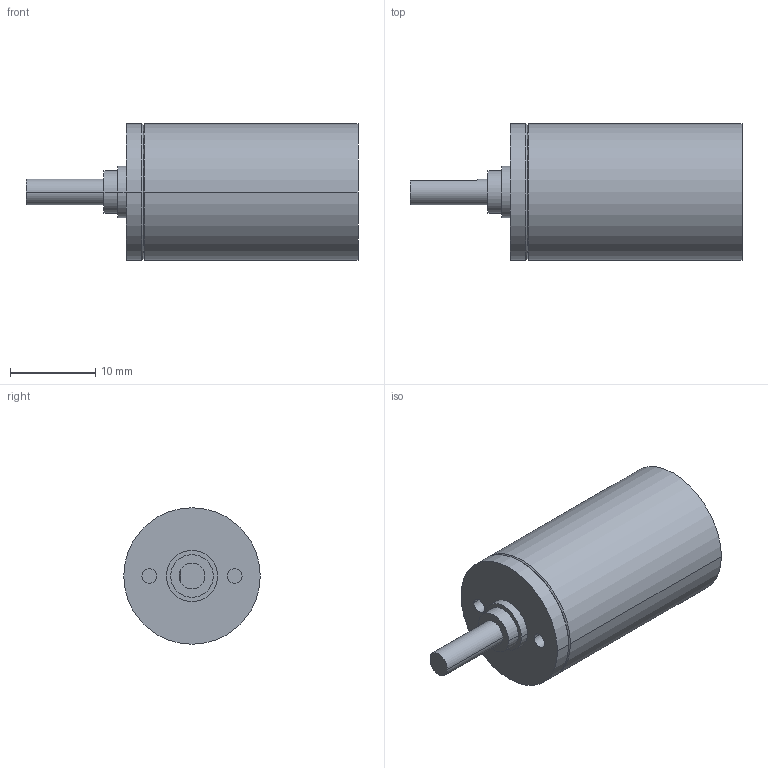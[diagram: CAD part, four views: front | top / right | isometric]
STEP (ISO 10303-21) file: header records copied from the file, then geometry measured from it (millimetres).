
FILE_DESCRIPTION((''),'2;1');
FILE_NAME('1681860','2016-10-04T',('mmagvisi'),(''),'CREO PARAMETRIC BY PTC INC, 2016050','CREO PARAMETRIC BY PTC INC, 2016050','');
FILE_SCHEMA(('CONFIG_CONTROL_DESIGN'));
Length unit declared in the file: millimetre
Products named in the file (1): 1681860
Bounding box: 38.95 x 16 x 16 mm (x, y, z)
Volume: 5368.5 mm3; surface area: 1997.1 mm2
Topology: 1 solids, 1 shells, 30 faces, 60 edges, 38 vertices
Faces by surface type: cylinder 16, plane 10, cone 4
Entity records: 895 total; most frequent: DIRECTION 152, CARTESIAN_POINT 133, ORIENTED_EDGE 120, AXIS2_PLACEMENT_3D 64, EDGE_CURVE 60, COLOUR_RGB 58, VERTEX_POINT 38, EDGE_LOOP 36
